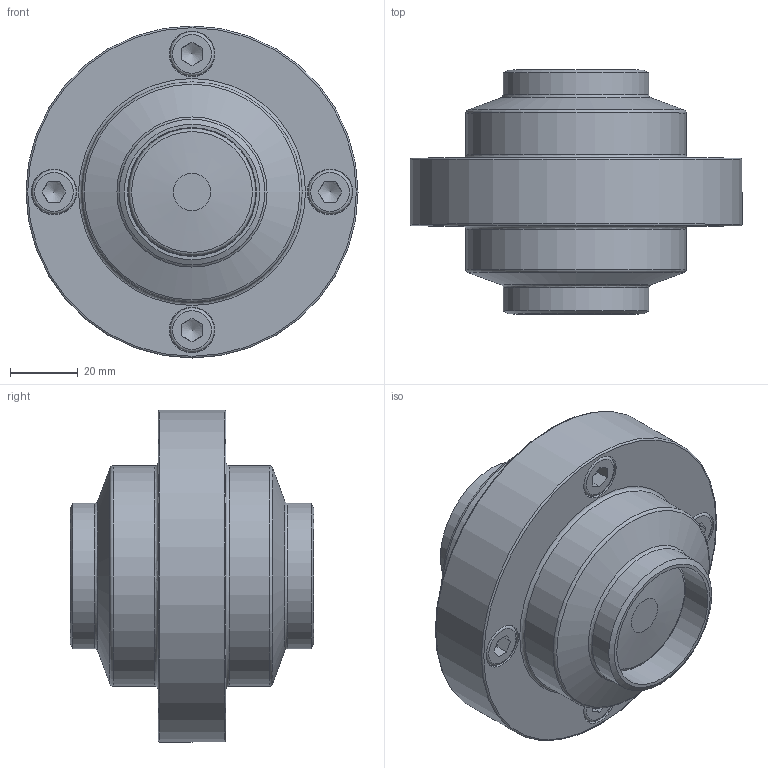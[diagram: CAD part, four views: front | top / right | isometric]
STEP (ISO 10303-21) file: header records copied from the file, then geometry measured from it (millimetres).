
FILE_DESCRIPTION((''),'2;1');
FILE_NAME('K:\2013 konstrukce\5xxxx\50800-ZPĚTNÝ VENTIL S-S\5080D-040.stp','2021-01-22T07:59:14',('konstrukce3'),(''),'Autodesk Inventor 2010','Autodesk Inventor 2010','');
FILE_SCHEMA(('AUTOMOTIVE_DESIGN { 1 0 10303 214 1 1 1 1 }'));
Length unit declared in the file: millimetre
Products named in the file (1): Součást7
Bounding box: 98 x 72 x 98 mm (x, y, z)
Volume: 159810.7 mm3; surface area: 53843.1 mm2
Topology: 1 solids, 7 shells, 247 faces, 540 edges, 320 vertices
Faces by surface type: plane 73, bspline 48, cylinder 45, torus 41, cone 40
Full cylindrical faces by diameter (mm): 8 x4, 10 x1, 13 x4, 13.5 x2, 14 x1, 37.5 x1, 38 x2, 43 x2, 45 x1, 61 x1, 65 x3, 72 x1, 98 x1
Entity records: 10720 total; most frequent: CARTESIAN_POINT 5597, DIRECTION 1038, ORIENTED_EDGE 864, AXIS2_PLACEMENT_3D 462, EDGE_CURVE 432, EDGE_LOOP 369, VERTEX_POINT 301, CIRCLE 262
